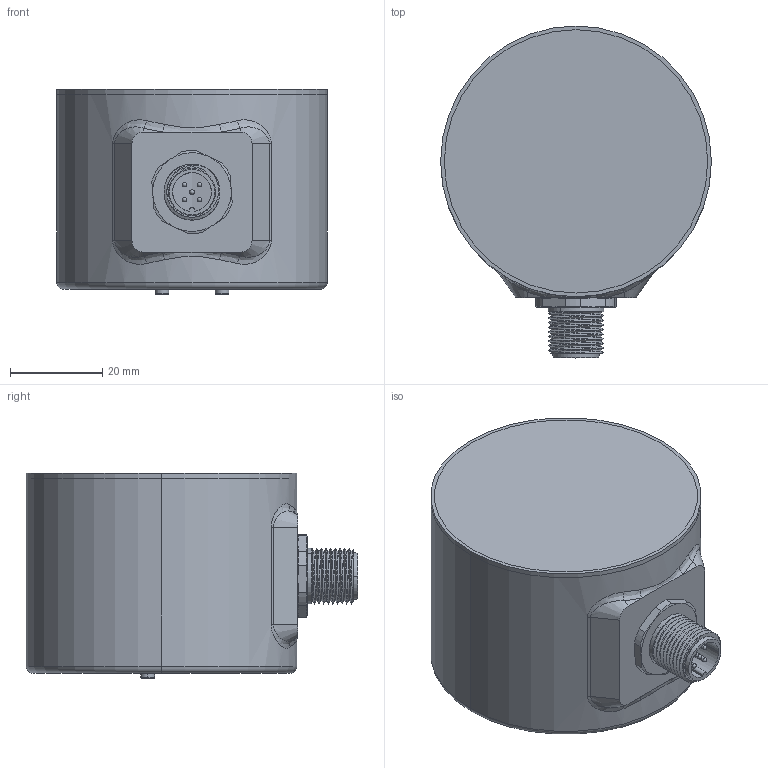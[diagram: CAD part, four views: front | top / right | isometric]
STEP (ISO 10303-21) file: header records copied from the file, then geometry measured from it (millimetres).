
FILE_DESCRIPTION (( 'STEP AP203' ), '1' );
FILE_NAME ('Drawing-MC-5-CR-432-SZM-SKB12T-N-PRM-N.STEP', '2015-02-18T09:35:46', ( '' ), ( '' ), 'SwSTEP 2.0', 'SolidWorks 2015', '' );
FILE_SCHEMA (( 'CONFIG_CONTROL_DESIGN' ));
Length unit declared in the file: millimetre
Products named in the file (1): Drawing-MC-5-CR-432-SZM-SKB12T-N-PRM-N
Bounding box: 58.6 x 71.8 x 44.37 mm (x, y, z)
Surface area: 26843.7 mm2 (no closed solid volume)
Topology: 0 solids, 21 shells, 182 faces, 512 edges, 342 vertices
Faces by surface type: cylinder 86, plane 44, bspline 19, torus 14, cone 14, sphere 5
Entity records: 7976 total; most frequent: CARTESIAN_POINT 3539, DIRECTION 929, ORIENTED_EDGE 843, EDGE_CURVE 492, AXIS2_PLACEMENT_3D 380, VERTEX_POINT 332, CIRCLE 216, EDGE_LOOP 206
